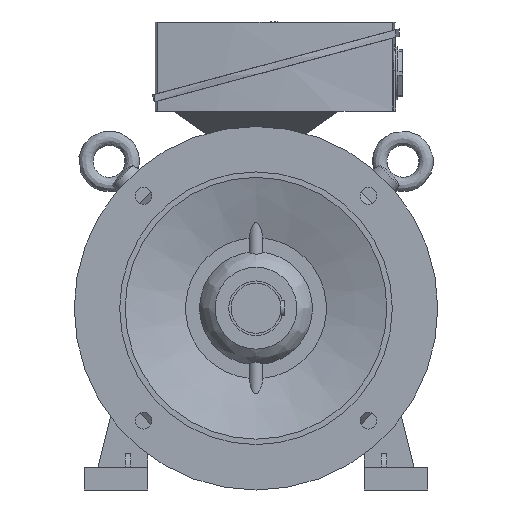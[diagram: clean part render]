
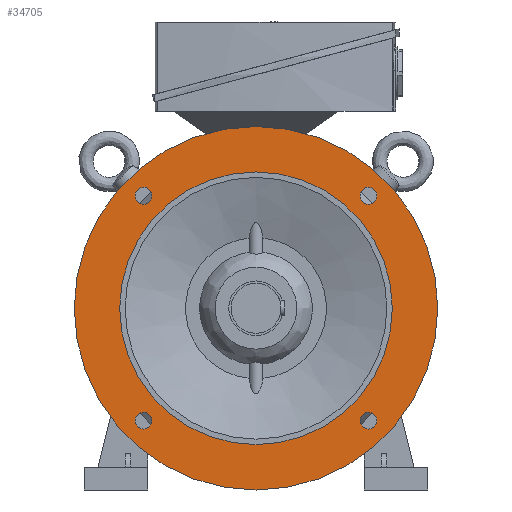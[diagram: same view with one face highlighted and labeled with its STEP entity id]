
A CAD part, left-side view. The second image highlights one B-rep face of the part: STEP entity #34705.
In plain terms, the highlighted planar face has unit normal (-1, 0, 0).
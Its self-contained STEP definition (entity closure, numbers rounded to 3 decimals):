
#1425 = VERTEX_POINT ( 'NONE', #2551 ) ;
#1426 = VERTEX_POINT ( 'NONE', #2552 ) ;
#1427 = VERTEX_POINT ( 'NONE', #2553 ) ;
#1428 = VERTEX_POINT ( 'NONE', #2554 ) ;
#1429 = VERTEX_POINT ( 'NONE', #2555 ) ;
#1435 = VERTEX_POINT ( 'NONE', #2561 ) ;
#2551 = CARTESIAN_POINT ( 'NONE',  ( -87., -123.744, -132.994 ) ) ;
#2552 = CARTESIAN_POINT ( 'NONE',  ( -87., 123.744, -132.994 ) ) ;
#2553 = CARTESIAN_POINT ( 'NONE',  ( -87., 123.744, 114.494 ) ) ;
#2554 = CARTESIAN_POINT ( 'NONE',  ( -87., -123.744, 114.494 ) ) ;
#2555 = CARTESIAN_POINT ( 'NONE',  ( -87., 0., 200. ) ) ;
#2561 = CARTESIAN_POINT ( 'NONE',  ( -87., 0., 150. ) ) ;
#8923 = CARTESIAN_POINT ( 'NONE',  ( -87., -123.744, -123.744 ) ) ;
#8924 = DIRECTION ( 'NONE',  ( 1., 0., 0. ) ) ;
#8925 = DIRECTION ( 'NONE',  ( 0., 0., -1. ) ) ;
#8926 = CARTESIAN_POINT ( 'NONE',  ( -87., 123.744, -123.744 ) ) ;
#8927 = DIRECTION ( 'NONE',  ( 1., 0., 0. ) ) ;
#8928 = DIRECTION ( 'NONE',  ( 0., 0., -1. ) ) ;
#8930 = CARTESIAN_POINT ( 'NONE',  ( -87., 123.744, 123.744 ) ) ;
#8931 = DIRECTION ( 'NONE',  ( 1., 0., 0. ) ) ;
#8932 = DIRECTION ( 'NONE',  ( 0., 0., -1. ) ) ;
#8934 = CARTESIAN_POINT ( 'NONE',  ( -87., -123.744, 123.744 ) ) ;
#8935 = DIRECTION ( 'NONE',  ( 1., 0., 0. ) ) ;
#8936 = DIRECTION ( 'NONE',  ( 0., 0., -1. ) ) ;
#8938 = CARTESIAN_POINT ( 'NONE',  ( -87., 0., 0. ) ) ;
#8939 = DIRECTION ( 'NONE',  ( 1., 0., 0. ) ) ;
#8940 = DIRECTION ( 'NONE',  ( 0., 0., 1. ) ) ;
#9090 = CARTESIAN_POINT ( 'NONE',  ( -87., 0., 0. ) ) ;
#9091 = DIRECTION ( 'NONE',  ( 1., 0., 0. ) ) ;
#9093 = DIRECTION ( 'NONE',  ( 0., 0., 1. ) ) ;
#11208 = AXIS2_PLACEMENT_3D ( 'NONE', #8923, #8924, #8925 ) ;
#11210 = AXIS2_PLACEMENT_3D ( 'NONE', #8926, #8927, #8928 ) ;
#11212 = AXIS2_PLACEMENT_3D ( 'NONE', #8930, #8931, #8932 ) ;
#11213 = AXIS2_PLACEMENT_3D ( 'NONE', #8934, #8935, #8936 ) ;
#11215 = AXIS2_PLACEMENT_3D ( 'NONE', #8938, #8939, #8940 ) ;
#11236 = AXIS2_PLACEMENT_3D ( 'NONE', #9090, #9091, #9093 ) ;
#21469 = EDGE_CURVE ( 'NONE', #1425, #1425, #37414, .T. ) ;
#21470 = EDGE_CURVE ( 'NONE', #1426, #1426, #37418, .T. ) ;
#21471 = EDGE_CURVE ( 'NONE', #1427, #1427, #37419, .T. ) ;
#21472 = EDGE_CURVE ( 'NONE', #1428, #1428, #37420, .T. ) ;
#21473 = EDGE_CURVE ( 'NONE', #1429, #1429, #37421, .T. ) ;
#21509 = EDGE_CURVE ( 'NONE', #1435, #1435, #37471, .T. ) ;
#30168 = AXIS2_PLACEMENT_3D ( 'NONE', #31154, #31155, #31156 ) ;
#31135 = PLANE ( 'NONE',  #30168 ) ;
#31154 = CARTESIAN_POINT ( 'NONE',  ( -87., 175., 0. ) ) ;
#31155 = DIRECTION ( 'NONE',  ( -1., 0., 0. ) ) ;
#31156 = DIRECTION ( 'NONE',  ( 0., 0., 1. ) ) ;
#32393 = FACE_BOUND ( 'NONE', #42561, .T. ) ;
#32394 = FACE_BOUND ( 'NONE', #42548, .T. ) ;
#32395 = FACE_BOUND ( 'NONE', #42546, .T. ) ;
#32396 = FACE_BOUND ( 'NONE', #42547, .T. ) ;
#32397 = FACE_OUTER_BOUND ( 'NONE', #42556, .T. ) ;
#32398 = FACE_BOUND ( 'NONE', #42545, .T. ) ;
#34705 = ADVANCED_FACE ( 'NONE', ( #32393, #32397, #32394, #32396, #32395, #32398 ), #31135, .T. ) ;
#37414 = CIRCLE ( 'NONE', #11208, 9.25 ) ;
#37418 = CIRCLE ( 'NONE', #11210, 9.25 ) ;
#37419 = CIRCLE ( 'NONE', #11212, 9.25 ) ;
#37420 = CIRCLE ( 'NONE', #11213, 9.25 ) ;
#37421 = CIRCLE ( 'NONE', #11215, 200. ) ;
#37471 = CIRCLE ( 'NONE', #11236, 150. ) ;
#42545 = EDGE_LOOP ( 'NONE', ( #42715 ) ) ;
#42546 = EDGE_LOOP ( 'NONE', ( #42714 ) ) ;
#42547 = EDGE_LOOP ( 'NONE', ( #42713 ) ) ;
#42548 = EDGE_LOOP ( 'NONE', ( #42712 ) ) ;
#42556 = EDGE_LOOP ( 'NONE', ( #42711 ) ) ;
#42561 = EDGE_LOOP ( 'NONE', ( #42710 ) ) ;
#42710 = ORIENTED_EDGE ( 'NONE', *, *, #21509, .T. ) ;
#42711 = ORIENTED_EDGE ( 'NONE', *, *, #21473, .F. ) ;
#42712 = ORIENTED_EDGE ( 'NONE', *, *, #21472, .T. ) ;
#42713 = ORIENTED_EDGE ( 'NONE', *, *, #21471, .T. ) ;
#42714 = ORIENTED_EDGE ( 'NONE', *, *, #21470, .T. ) ;
#42715 = ORIENTED_EDGE ( 'NONE', *, *, #21469, .T. ) ;
